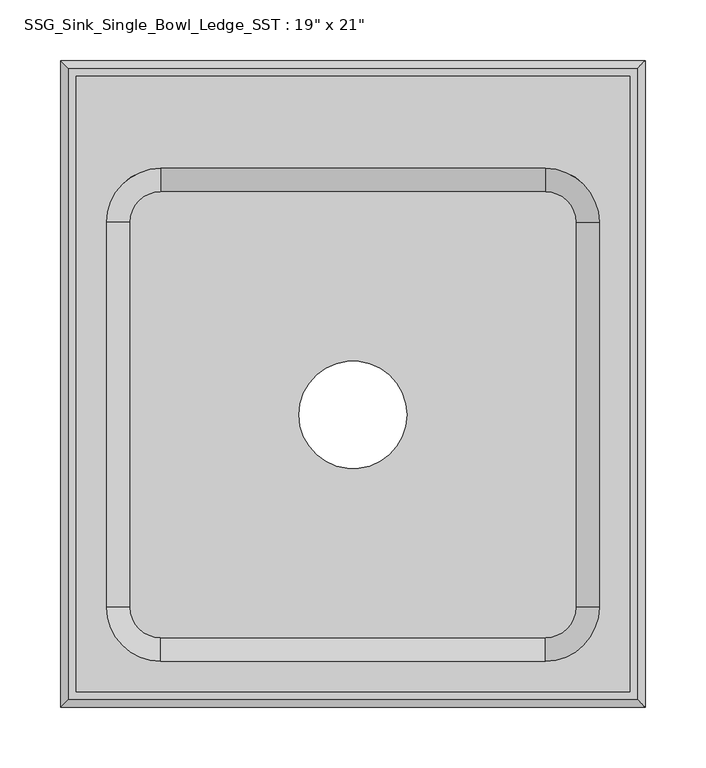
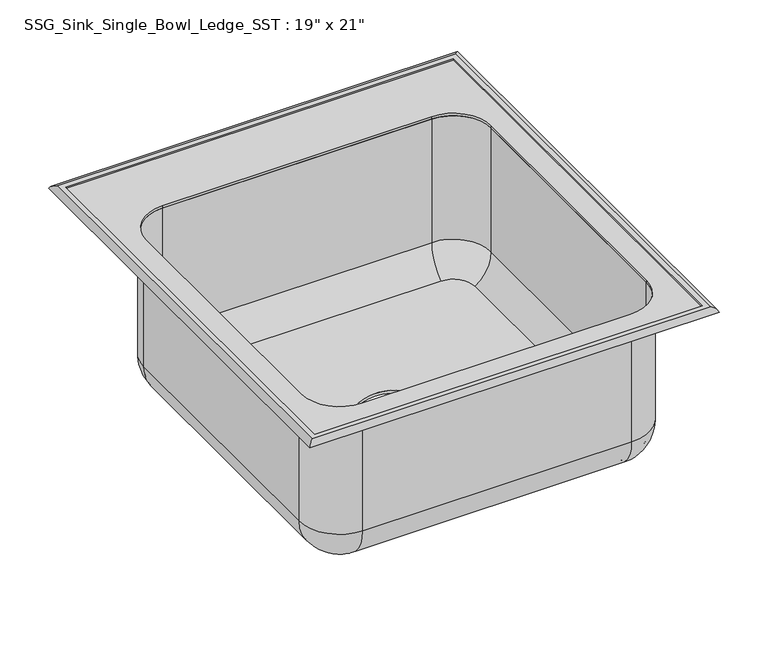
"""IFC4 building model written with IfcOpenShell, lengths in millimetres: flow terminal geometry."""

from ifc_helpers import new_model, si_unit, point, frame, frame_2d, origin, origin_with_axes, place, context, project, spatial, polyline, circle_curve, ellipse_curve, trimmed, segment, composite_curve, outline, extrude, source, transform, mapped, element, save
from ifc_brep_helpers import plane_surface, cylinder_surface, revolved_surface, advanced_brep


def flow_terminal_f9220a25(model_context):
    return source(origin(), model_context, "Body", "SolidModel", [
        advanced_brep(
        [(158.75, -209.3328477, -190.5), (183.9328477, -184.15, -190.5), (183.9328477, 133.35, -190.5), (158.75, 158.5328477, -190.5), (-158.75, 158.5328477, -190.5), (-183.9328477, 133.35, -190.5), (-183.9328477, -184.15, -190.5), (-158.75, -209.3328477, -190.5), (-44.45, -25.4, -190.5), (44.45, -25.4, -190.5), (184.5900646, -184.15, -193.8771732), (158.75, -209.9900646, -193.8771732), (-158.75, -209.9900646, -193.8771732), (-184.5900646, -184.15, -193.8771732), (-184.5900646, 133.35, -193.8771732), (-158.75, 159.1900646, -193.8771732), (158.75, 159.1900646, -193.8771732), (184.5900646, 133.35, -193.8771732), (-44.45, -25.4, -193.8771732), (44.45, -25.4, -193.8771732), (158.75, -228.6, 0.0), (203.2, -184.15, 0.0), (203.2, -184.15, -153.8717775), (158.75, -228.6, -153.8717775), (158.75, -231.775, -153.8717775), (206.375, -184.15, -153.8717775), (206.375, -184.15, 0.0), (158.75, -231.775, 0.0), (-158.75, -228.6, -153.8717775), (-158.75, -228.6, 0.0), (-158.75, -231.775, 0.0), (-158.75, -231.775, -153.8717775), (-203.2, -184.15, -153.8717775), (-203.2, -184.15, 0.0), (-206.375, -184.15, 0.0), (-206.375, -184.15, -153.8717775), (-203.2, 133.35, -153.8717775), (-203.2, 133.35, 0.0), (-206.375, 133.35, 0.0), (-206.375, 133.35, -153.8717775), (-158.75, 177.8, -153.8717775), (-158.75, 177.8, 0.0), (-158.75, 180.975, 0.0), (-158.75, 180.975, -153.8717775), (158.75, 177.8, -153.8717775), (158.75, 177.8, 0.0), (158.75, 180.975, 0.0), (158.75, 180.975, -153.8717775), (203.2, 133.35, -153.8717775), (203.2, 133.35, 0.0), (206.375, 133.35, 0.0), (206.375, 133.35, -153.8717775)],
        [
            (0, 1, circle_curve(frame((158.75, -184.15, -190.5), z_axis=(0.0, 0.0, 1.0), x_axis=(1.0, 0.0, 0.0)), 25.1828477)),
            (1, 2),
            (2, 3, circle_curve(frame((158.75, 133.35, -190.5), z_axis=(0.0, 0.0, 1.0), x_axis=(0.0, 1.0, 0.0)), 25.1828477)),
            (3, 4),
            (4, 5, circle_curve(frame((-158.75, 133.35, -190.5), z_axis=(0.0, 0.0, 1.0), x_axis=(-1.0, 0.0, 0.0)), 25.1828477)),
            (5, 6),
            (6, 7, circle_curve(frame((-158.75, -184.15, -190.5), z_axis=(0.0, 0.0, 1.0), x_axis=(0.0, -1.0, 0.0)), 25.1828477)),
            (7, 0),
            (8, 9, circle_curve(frame((0.0, -25.4, -190.5), z_axis=(0.0, 0.0, -1.0), x_axis=(1.0, 0.0, 0.0)), 44.45)),
            (9, 8, circle_curve(frame((0.0, -25.4, -190.5), z_axis=(0.0, 0.0, -1.0), x_axis=(1.0, 0.0, 0.0)), 44.45)),
            (10, 11, circle_curve(frame((158.75, -184.15, -193.8771732), z_axis=(0.0, 0.0, -1.0), x_axis=(1.0, 0.0, 0.0)), 25.8400646)),
            (11, 12),
            (12, 13, circle_curve(frame((-158.75, -184.15, -193.8771732), z_axis=(0.0, 0.0, -1.0), x_axis=(0.0, -1.0, 0.0)), 25.8400646)),
            (13, 14),
            (14, 15, circle_curve(frame((-158.75, 133.35, -193.8771732), z_axis=(0.0, 0.0, -1.0), x_axis=(-1.0, 0.0, 0.0)), 25.8400646)),
            (15, 16),
            (16, 17, circle_curve(frame((158.75, 133.35, -193.8771732), z_axis=(0.0, 0.0, -1.0), x_axis=(0.0, 1.0, 0.0)), 25.8400646)),
            (17, 10),
            (18, 19, circle_curve(frame((0.0, -25.4, -193.8771732), z_axis=(0.0, 0.0, 1.0), x_axis=(1.0, 0.0, 0.0)), 44.45)),
            (19, 18, circle_curve(frame((0.0, -25.4, -193.8771732), z_axis=(0.0, 0.0, 1.0), x_axis=(1.0, 0.0, 0.0)), 44.45)),
            (8, 18),
            (19, 9),
            (20, 21, circle_curve(frame((158.75, -184.15, 0.0), z_axis=(0.0, 0.0, 1.0), x_axis=(1.0, 0.0, 0.0)), 44.45)),
            (21, 22),
            (22, 23, circle_curve(frame((158.75, -184.15, -153.8717775), z_axis=(0.0, 0.0, -1.0), x_axis=(1.0, 0.0, 0.0)), 44.45)),
            (23, 20),
            (24, 25, circle_curve(frame((158.75, -184.15, -153.8717775), z_axis=(0.0, 0.0, 1.0), x_axis=(1.0, 0.0, 0.0)), 47.625)),
            (25, 26),
            (26, 27, circle_curve(frame((158.75, -184.15, 0.0), z_axis=(0.0, 0.0, -1.0), x_axis=(1.0, 0.0, 0.0)), 47.625)),
            (27, 24),
            (24, 11, circle_curve(frame((158.75, -184.15, -153.8717775), z_axis=(1.0, 0.0, 0.0), x_axis=(0.0, -1.0, 0.0)), 47.625)),
            (10, 25, circle_curve(frame((158.75, -184.15, -153.8717775), z_axis=(0.0, -1.0, 0.0), x_axis=(1.0, 0.0, 0.0)), 47.625)),
            (22, 1, circle_curve(frame((158.75, -184.15, -153.8717775), z_axis=(0.0, 1.0, 0.0), x_axis=(1.0, 0.0, 0.0)), 44.45)),
            (0, 23, circle_curve(frame((158.75, -184.15, -153.8717775), z_axis=(-1.0, 0.0, 0.0), x_axis=(0.0, -1.0, 0.0)), 44.45)),
            (23, 28),
            (28, 29),
            (29, 20),
            (27, 30),
            (30, 31),
            (31, 24),
            (31, 12, circle_curve(frame((-158.75, -184.15, -153.8717775), z_axis=(1.0, 0.0, 0.0), x_axis=(0.0, -1.0, 0.0)), 47.625)),
            (7, 28, circle_curve(frame((-158.75, -184.15, -153.8717775), z_axis=(-1.0, 0.0, 0.0), x_axis=(0.0, -1.0, 0.0)), 44.45)),
            (28, 32, circle_curve(frame((-158.75, -184.15, -153.8717775), z_axis=(0.0, 0.0, -1.0), x_axis=(0.0, -1.0, 0.0)), 44.45)),
            (32, 33),
            (33, 29, circle_curve(frame((-158.75, -184.15, 0.0), z_axis=(0.0, 0.0, 1.0), x_axis=(0.0, -1.0, 0.0)), 44.45)),
            (30, 34, circle_curve(frame((-158.75, -184.15, 0.0), z_axis=(0.0, 0.0, -1.0), x_axis=(0.0, -1.0, 0.0)), 47.625)),
            (34, 35),
            (35, 31, circle_curve(frame((-158.75, -184.15, -153.8717775), z_axis=(0.0, 0.0, 1.0), x_axis=(0.0, -1.0, 0.0)), 47.625)),
            (35, 13, circle_curve(frame((-158.75, -184.15, -153.8717775), z_axis=(0.0, -1.0, 0.0), x_axis=(-1.0, 0.0, 0.0)), 47.625)),
            (6, 32, circle_curve(frame((-158.75, -184.15, -153.8717775), z_axis=(0.0, 1.0, 0.0), x_axis=(-1.0, 0.0, 0.0)), 44.45)),
            (32, 36),
            (36, 37),
            (37, 33),
            (34, 38),
            (38, 39),
            (39, 35),
            (39, 14, circle_curve(frame((-158.75, 133.35, -153.8717775), z_axis=(0.0, -1.0, 0.0), x_axis=(-1.0, 0.0, 0.0)), 47.625)),
            (5, 36, circle_curve(frame((-158.75, 133.35, -153.8717775), z_axis=(0.0, 1.0, 0.0), x_axis=(-1.0, 0.0, 0.0)), 44.45)),
            (36, 40, circle_curve(frame((-158.75, 133.35, -153.8717775), z_axis=(0.0, 0.0, -1.0), x_axis=(-1.0, 0.0, 0.0)), 44.45)),
            (40, 41),
            (41, 37, circle_curve(frame((-158.75, 133.35, 0.0), z_axis=(0.0, 0.0, 1.0), x_axis=(-1.0, 0.0, 0.0)), 44.45)),
            (38, 42, circle_curve(frame((-158.75, 133.35, 0.0), z_axis=(0.0, 0.0, -1.0), x_axis=(-1.0, 0.0, 0.0)), 47.625)),
            (42, 43),
            (43, 39, circle_curve(frame((-158.75, 133.35, -153.8717775), z_axis=(0.0, 0.0, 1.0), x_axis=(-1.0, 0.0, 0.0)), 47.625)),
            (43, 15, circle_curve(frame((-158.75, 133.35, -153.8717775), z_axis=(-1.0, 0.0, 0.0), x_axis=(0.0, 1.0, 0.0)), 47.625)),
            (4, 40, circle_curve(frame((-158.75, 133.35, -153.8717775), z_axis=(1.0, 0.0, 0.0), x_axis=(0.0, 1.0, 0.0)), 44.45)),
            (40, 44),
            (44, 45),
            (45, 41),
            (42, 46),
            (46, 47),
            (47, 43),
            (47, 16, circle_curve(frame((158.75, 133.35, -153.8717775), z_axis=(-1.0, 0.0, 0.0), x_axis=(0.0, 1.0, 0.0)), 47.625)),
            (3, 44, circle_curve(frame((158.75, 133.35, -153.8717775), z_axis=(1.0, 0.0, 0.0), x_axis=(0.0, 1.0, 0.0)), 44.45)),
            (44, 48, circle_curve(frame((158.75, 133.35, -153.8717775), z_axis=(0.0, 0.0, -1.0), x_axis=(0.0, 1.0, 0.0)), 44.45)),
            (48, 49),
            (49, 45, circle_curve(frame((158.75, 133.35, 0.0), z_axis=(0.0, 0.0, 1.0), x_axis=(0.0, 1.0, 0.0)), 44.45)),
            (46, 50, circle_curve(frame((158.75, 133.35, 0.0), z_axis=(0.0, 0.0, -1.0), x_axis=(0.0, 1.0, 0.0)), 47.625)),
            (50, 51),
            (51, 47, circle_curve(frame((158.75, 133.35, -153.8717775), z_axis=(0.0, 0.0, 1.0), x_axis=(0.0, 1.0, 0.0)), 47.625)),
            (51, 17, circle_curve(frame((158.75, 133.35, -153.8717775), z_axis=(0.0, 1.0, 0.0), x_axis=(1.0, 0.0, 0.0)), 47.625)),
            (2, 48, circle_curve(frame((158.75, 133.35, -153.8717775), z_axis=(0.0, -1.0, 0.0), x_axis=(1.0, 0.0, 0.0)), 44.45)),
            (21, 49),
            (48, 22),
            (26, 50),
            (25, 51),
        ],
        [
            plane_surface(frame((-158.75, 136.3290793, -190.5), z_axis=(0.0, 0.0, 1.0), x_axis=(-1.0, 0.0, 0.0))),
            plane_surface(frame((-158.75, 136.3290793, -193.8771732), z_axis=(0.0, 0.0, -1.0), x_axis=(1.0, 0.0, 0.0))),
            revolved_surface(polyline([(44.45, -25.4, -193.8771732), (44.45, -25.4, -190.5)]), (0.0, -25.4, 0.0), (0.0, 0.0, -1.0)),
            revolved_surface(polyline([(203.2, -184.15, -153.8717775), (203.2, -184.15, 0.0)]), (158.75, -184.15, 3.175), (0.0, 0.0, -1.0)),
            cylinder_surface(frame((158.75, -184.15, 3.175), z_axis=(0.0, 0.0, -1.0), x_axis=(1.0, 0.0, 0.0)), 47.625),
            revolved_surface(trimmed(ellipse_curve(frame((158.75, -184.15, -153.8717775), z_axis=(0.0, 1.0, 0.0), x_axis=(1.0, 0.0, 0.0)), 47.625, 47.625), [point((206.375, -184.15, -153.8717775))], [point((184.5900646, -184.15, -193.8771732))], True, "CARTESIAN"), (158.75, -184.15, 3.175), (0.0, 0.0, -1.0)),
            revolved_surface(trimmed(ellipse_curve(frame((158.75, -184.15, -153.8717775), z_axis=(0.0, -1.0, 0.0), x_axis=(1.0, 0.0, 0.0)), 44.45, 44.45), [point((183.9328477, -184.15, -190.5))], [point((203.2, -184.15, -153.8717775))], True, "CARTESIAN"), (158.75, -184.15, 3.175), (0.0, 0.0, -1.0)),
            plane_surface(frame((158.75, -228.6, -153.8717775), z_axis=(0.0, 1.0, 0.0), x_axis=(-1.0, 0.0, 0.0))),
            plane_surface(frame((158.75, -231.775, 0.0), z_axis=(0.0, -1.0, 0.0), x_axis=(-1.0, 0.0, 0.0))),
            cylinder_surface(frame((158.75, -184.15, -153.8717775), z_axis=(1.0, 0.0, 0.0), x_axis=(0.0, -1.0, 0.0)), 47.625),
            revolved_surface(polyline([(-158.75, -228.60000000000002, -153.8717775), (158.75, -228.60000000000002, -153.8717775)]), (158.75, -184.15, -153.8717775), (-1.0, 0.0, 0.0)),
            revolved_surface(polyline([(-158.75, -228.60000000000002, -153.8717775), (-158.75, -228.60000000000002, 0.0)]), (-158.75, -184.15, 3.175), (0.0, 0.0, -1.0)),
            cylinder_surface(frame((-158.75, -184.15, 3.175), z_axis=(0.0, 0.0, -1.0), x_axis=(0.0, -1.0, 0.0)), 47.625),
            revolved_surface(trimmed(ellipse_curve(frame((-158.75, -184.15, -153.8717775), z_axis=(1.0, 0.0, 0.0), x_axis=(0.0, -1.0, 0.0)), 47.625, 47.625), [point((-158.75, -231.775, -153.8717775))], [point((-158.75, -209.9900646, -193.8771732))], True, "CARTESIAN"), (-158.75, -184.15, 3.175), (0.0, 0.0, -1.0)),
            revolved_surface(trimmed(ellipse_curve(frame((-158.75, -184.15, -153.8717775), z_axis=(-1.0, 0.0, 0.0), x_axis=(0.0, -1.0, 0.0)), 44.45, 44.45), [point((-158.75, -209.3328477, -190.5))], [point((-158.75, -228.6, -153.8717775))], True, "CARTESIAN"), (-158.75, -184.15, 3.175), (0.0, 0.0, -1.0)),
            plane_surface(frame((-203.2, -184.15, -153.8717775), z_axis=(1.0, 0.0, 0.0), x_axis=(0.0, 1.0, 0.0))),
            plane_surface(frame((-206.375, -184.15, 0.0), z_axis=(-1.0, 0.0, 0.0), x_axis=(0.0, 1.0, 0.0))),
            cylinder_surface(frame((-158.75, -184.15, -153.8717775), z_axis=(0.0, -1.0, 0.0), x_axis=(-1.0, 0.0, 0.0)), 47.625),
            revolved_surface(polyline([(-203.2, 133.35, -153.8717775), (-203.2, -184.15, -153.8717775)]), (-158.75, -184.15, -153.8717775), (0.0, 1.0, 0.0)),
            revolved_surface(polyline([(-203.2, 133.35, -153.8717775), (-203.2, 133.35, 0.0)]), (-158.75, 133.35, 3.175), (0.0, 0.0, -1.0)),
            cylinder_surface(frame((-158.75, 133.35, 3.175), z_axis=(0.0, 0.0, -1.0), x_axis=(-1.0, 0.0, 0.0)), 47.625),
            revolved_surface(trimmed(ellipse_curve(frame((-158.75, 133.35, -153.8717775), z_axis=(0.0, -1.0, 0.0), x_axis=(-1.0, 0.0, 0.0)), 47.625, 47.625), [point((-206.375, 133.35, -153.8717775))], [point((-184.5900646, 133.35, -193.8771732))], True, "CARTESIAN"), (-158.75, 133.35, 3.175), (0.0, 0.0, -1.0)),
            revolved_surface(trimmed(ellipse_curve(frame((-158.75, 133.35, -153.8717775), z_axis=(0.0, 1.0, 0.0), x_axis=(-1.0, 0.0, 0.0)), 44.45, 44.45), [point((-183.9328477, 133.35, -190.5))], [point((-203.2, 133.35, -153.8717775))], True, "CARTESIAN"), (-158.75, 133.35, 3.175), (0.0, 0.0, -1.0)),
            plane_surface(frame((-158.75, 177.8, -153.8717775), z_axis=(0.0, -1.0, 0.0), x_axis=(1.0, 0.0, 0.0))),
            plane_surface(frame((-158.75, 180.975, 0.0), z_axis=(0.0, 1.0, 0.0), x_axis=(1.0, 0.0, 0.0))),
            cylinder_surface(frame((-158.75, 133.35, -153.8717775), z_axis=(-1.0, 0.0, 0.0), x_axis=(0.0, 1.0, 0.0)), 47.625),
            revolved_surface(polyline([(158.75, 177.8, -153.8717775), (-158.75, 177.8, -153.8717775)]), (-158.75, 133.35, -153.8717775), (1.0, 0.0, 0.0)),
            revolved_surface(polyline([(158.75, 177.8, -153.8717775), (158.75, 177.8, 0.0)]), (158.75, 133.35, 3.175), (0.0, 0.0, -1.0)),
            cylinder_surface(frame((158.75, 133.35, 3.175), z_axis=(0.0, 0.0, -1.0), x_axis=(0.0, 1.0, 0.0)), 47.625),
            revolved_surface(trimmed(ellipse_curve(frame((158.75, 133.35, -153.8717775), z_axis=(-1.0, 0.0, 0.0), x_axis=(0.0, 1.0, 0.0)), 47.625, 47.625), [point((158.75, 180.975, -153.8717775))], [point((158.75, 159.1900646, -193.8771732))], True, "CARTESIAN"), (158.75, 133.35, 3.175), (0.0, 0.0, -1.0)),
            revolved_surface(trimmed(ellipse_curve(frame((158.75, 133.35, -153.8717775), z_axis=(1.0, 0.0, 0.0), x_axis=(0.0, 1.0, 0.0)), 44.45, 44.45), [point((158.75, 158.5328477, -190.5))], [point((158.75, 177.8, -153.8717775))], True, "CARTESIAN"), (158.75, 133.35, 3.175), (0.0, 0.0, -1.0)),
            plane_surface(frame((203.2, 133.35, -153.8717775), z_axis=(-1.0, 0.0, 0.0), x_axis=(0.0, -1.0, 0.0))),
            plane_surface(frame((203.2, 133.35, 0.0), z_axis=(0.0, 0.0, 1.0), x_axis=(0.0, -1.0, 0.0))),
            plane_surface(frame((206.375, 133.35, 0.0), z_axis=(1.0, 0.0, 0.0), x_axis=(0.0, -1.0, 0.0))),
            cylinder_surface(frame((158.75, 133.35, -153.8717775), z_axis=(0.0, 1.0, 0.0), x_axis=(1.0, 0.0, 0.0)), 47.625),
            revolved_surface(polyline([(203.2, -184.15, -153.8717775), (203.2, 133.35, -153.8717775)]), (158.75, 133.35, -153.8717775), (0.0, -1.0, 0.0)),
        ],
        [
            (0, [[1, 2, 3, 4, 5, 6, 7, 8], [9, 10]]),
            (1, [[11, 12, 13, 14, 15, 16, 17, 18], [19, 20]]),
            (2, [[-9, 21, -20, 22]]),
            (2, [[-10, -22, -19, -21]]),
            (3, [[23, 24, 25, 26]]),
            (4, [[27, 28, 29, 30]]),
            (5, [[-27, 31, -11, 32]]),
            (6, [[-25, 33, -1, 34]]),
            (7, [[-26, 35, 36, 37]]),
            (8, [[-30, 38, 39, 40]]),
            (9, [[-31, -40, 41, -12]]),
            (10, [[-34, -8, 42, -35]]),
            (11, [[-36, 43, 44, 45]]),
            (12, [[-39, 46, 47, 48]]),
            (13, [[-41, -48, 49, -13]]),
            (14, [[-42, -7, 50, -43]]),
            (15, [[-44, 51, 52, 53]]),
            (16, [[-47, 54, 55, 56]]),
            (17, [[-49, -56, 57, -14]]),
            (18, [[-50, -6, 58, -51]]),
            (19, [[-52, 59, 60, 61]]),
            (20, [[-55, 62, 63, 64]]),
            (21, [[-57, -64, 65, -15]]),
            (22, [[-58, -5, 66, -59]]),
            (23, [[-60, 67, 68, 69]]),
            (24, [[-63, 70, 71, 72]]),
            (25, [[-65, -72, 73, -16]]),
            (26, [[-66, -4, 74, -67]]),
            (27, [[-68, 75, 76, 77]]),
            (28, [[-71, 78, 79, 80]]),
            (29, [[-73, -80, 81, -17]]),
            (30, [[-74, -3, 82, -75]]),
            (31, [[-24, 83, -76, 84]]),
            (32, [[-29, 85, -78, -70, -62, -54, -46, -38], [-23, -37, -45, -53, -61, -69, -77, -83]]),
            (33, [[-28, 86, -79, -85]]),
            (34, [[-32, -18, -81, -86]]),
            (35, [[-33, -84, -82, -2]]),
        ],
    ),
        advanced_brep(
        [(-228.6, -254.0, -0.0278334), (-228.6, -254.0, 4.7346666), (228.6, -254.0, 4.7346666), (228.6, -254.0, -0.0278334), (-234.9496723, -260.3496723, 4.7346666), (-241.3, -266.7, -0.0278334), (241.3, -266.7, -0.0278334), (234.9496723, -260.3496723, 4.7346666), (228.6, 254.0, 4.7346666), (228.6, 254.0, -0.0278334), (241.3, 266.7, -0.0278334), (234.9496723, 260.3496723, 4.7346666), (-228.6, 254.0, 4.7346666), (-228.6, 254.0, -0.0278334), (-241.3, 266.7, -0.0278334), (-234.9496723, 260.3496723, 4.7346666)],
        [
            (0, 1),
            (1, 2),
            (2, 3),
            (3, 0),
            (4, 5, ellipse_curve(frame((-234.9496723, -260.3496723, -1.8803536), z_axis=(0.7071067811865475, -0.7071067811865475, 0.0), x_axis=(-0.7071067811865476, -0.7071067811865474, 0.0)), 9.3550513, 6.6150202)),
            (5, 6),
            (6, 7, ellipse_curve(frame((234.9496723, -260.3496723, -1.8803536), z_axis=(-0.7071067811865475, -0.7071067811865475, 0.0), x_axis=(-0.7071067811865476, 0.7071067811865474, 0.0)), 9.3550513, 6.6150202)),
            (7, 4),
            (2, 8),
            (8, 9),
            (9, 3),
            (6, 10),
            (10, 11, ellipse_curve(frame((234.9496723, 260.3496723, -1.8803536), z_axis=(0.7071067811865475, -0.7071067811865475, 0.0), x_axis=(-0.7071067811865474, -0.7071067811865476, 0.0)), 9.3550513, 6.6150202)),
            (11, 7),
            (8, 12),
            (12, 13),
            (13, 9),
            (10, 14),
            (14, 15, ellipse_curve(frame((-234.9496723, 260.3496723, -1.8803536), z_axis=(0.7071067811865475, 0.7071067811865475, 0.0), x_axis=(0.7071067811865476, -0.7071067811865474, 0.0)), 9.3550513, 6.6150202)),
            (15, 11),
            (12, 1),
            (0, 13),
            (5, 14),
            (4, 15),
        ],
        [
            plane_surface(frame((-228.6, -254.0, 4.7346666), z_axis=(0.0, 1.0, 0.0), x_axis=(1.0, 0.0, 0.0))),
            cylinder_surface(frame((-241.3, -260.3496723, -1.8803536), z_axis=(-1.0, 0.0, 0.0), x_axis=(0.0, 1.0, 0.0)), 6.6150202),
            plane_surface(frame((228.6, -254.0, 4.7346666), z_axis=(-1.0, 0.0, 0.0), x_axis=(0.0, 1.0, 0.0))),
            cylinder_surface(frame((234.9496723, -266.7, -1.8803536), z_axis=(0.0, -1.0, 0.0), x_axis=(-1.0, 0.0, 0.0)), 6.6150202),
            plane_surface(frame((228.6, 254.0, 4.7346666), z_axis=(0.0, -1.0, 0.0), x_axis=(-1.0, 0.0, 0.0))),
            cylinder_surface(frame((241.3, 260.3496723, -1.8803536), z_axis=(1.0, 0.0, 0.0), x_axis=(0.0, -1.0, 0.0)), 6.6150202),
            plane_surface(frame((-228.6, 254.0, 4.7346666), z_axis=(1.0, 0.0, 0.0), x_axis=(0.0, -1.0, 0.0))),
            plane_surface(frame((-228.6, 254.0, -0.0278334), z_axis=(0.0, 0.0, -1.0), x_axis=(0.0, -1.0, 0.0))),
            cylinder_surface(frame((-234.9496723, 266.7, -1.8803536), z_axis=(0.0, 1.0, 0.0), x_axis=(1.0, 0.0, 0.0)), 6.6150202),
            plane_surface(frame((-234.9496723, 260.3496723, 4.7346666), z_axis=(0.0, 0.0, 1.0), x_axis=(0.0, -1.0, 0.0))),
        ],
        [
            (0, [[1, 2, 3, 4]]),
            (1, [[5, 6, 7, 8]]),
            (2, [[-3, 9, 10, 11]]),
            (3, [[-7, 12, 13, 14]]),
            (4, [[-10, 15, 16, 17]]),
            (5, [[-13, 18, 19, 20]]),
            (6, [[-16, 21, -1, 22]]),
            (7, [[23, -18, -12, -6], [-11, -17, -22, -4]]),
            (8, [[-19, -23, -5, 24]]),
            (9, [[-14, -20, -24, -8], [-21, -15, -9, -2]]),
        ],
    ),
        extrude(outline(polyline([(-228.6, 254.0), (228.6, 254.0), (228.6, -254.0), (-228.6, -254.0), (-228.6, 254.0)]), holes=[composite_curve([segment(polyline([(158.75, 177.8), (-158.75, 177.8)]), True, "CONTINUOUS"), segment(trimmed(circle_curve(frame_2d((-158.75, 133.35)), 44.45), [point((-158.75, 177.8))], [point((-203.2, 133.35))], True, "CARTESIAN"), True, "CONTINUOUS"), segment(polyline([(-203.2, 133.35), (-203.2, -184.15)]), True, "CONTINUOUS"), segment(trimmed(circle_curve(frame_2d((-158.75, -184.15)), 44.45), [point((-203.2, -184.15))], [point((-158.75, -228.6))], True, "CARTESIAN"), True, "CONTINUOUS"), segment(polyline([(-158.75, -228.6), (158.75, -228.6)]), True, "CONTINUOUS"), segment(trimmed(circle_curve(frame_2d((158.75, -184.15)), 44.45), [point((158.75, -228.6))], [point((203.2, -184.15))], True, "CARTESIAN"), True, "CONTINUOUS"), segment(polyline([(203.2, -184.15), (203.2, 133.35)]), True, "CONTINUOUS"), segment(trimmed(circle_curve(frame_2d((158.75, 133.35)), 44.45), [point((203.2, 133.35))], [point((158.75, 177.8))], True, "CARTESIAN"), True, "CONTINUOUS")], self_intersect=False)]), origin_with_axes(), (0.0, 0.0, 1.0), 3.175),
    ])


if __name__ == "__main__":
    model = new_model("IFC4")
    model_context = context("Model", 3, world=origin())
    ifc_project = project(units=[si_unit("LENGTHUNIT", "METRE", prefix="MILLI")], contexts=[model_context])
    site = spatial("IfcSite", under=ifc_project)
    building = spatial("IfcBuilding", under=site)
    placement = place(None, origin())
    flow_terminal_shape = flow_terminal_f9220a25(model_context)
    element("IfcFlowTerminal", 1, ObjectType="SSG_Sink_Single_Bowl_Ledge_SST : 19\" x 21\"", at=placement, inside=building, context=model_context, shape_type="MappedRepresentation", body=[
        mapped(flow_terminal_shape, transform((0.0, 0.0, 0.0), x_axis=(1.0, 0.0, 0.0), y_axis=(0.0, 1.0, 0.0), z_axis=(0.0, 0.0, 1.0))),
    ])
    save(model, "model.ifc")
